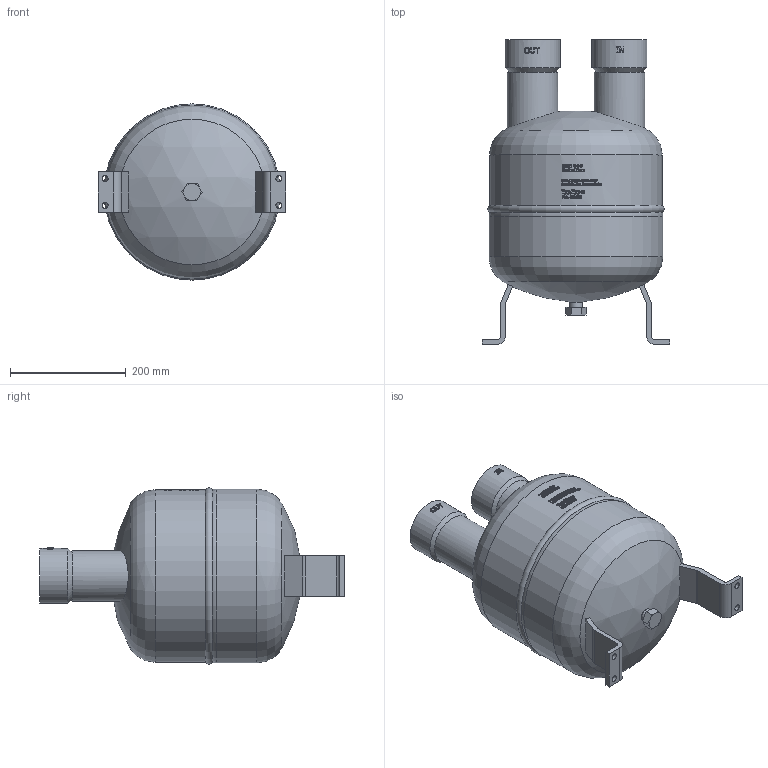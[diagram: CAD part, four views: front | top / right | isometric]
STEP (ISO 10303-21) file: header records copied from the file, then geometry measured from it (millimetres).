
FILE_DESCRIPTION(/* description */ (''),/* implementation_level */ '2;1');
FILE_NAME(/* name */ 'P:\FA\FA-80_89\FA-80_89.stp',/* time_stamp */ '2017-10-05T08:03:39+02:00',/* author */ ('neufeld'),/* organization */ (''),/* preprocessor_version */ 'ST-DEVELOPER v16.1',/* originating_system */ 'Autodesk Inventor 2016',/* authorisation */ '');
FILE_SCHEMA (('AUTOMOTIVE_DESIGN { 1 0 10303 214 3 1 1 }'));
Length unit declared in the file: millimetre
Products named in the file (2): FA-80_89; FA-80_89_1
Assembly tree (1 placements, depth 2):
  FA-80_89_1
    FA-80_89
Bounding box: 324 x 525.9 x 304.25 mm (x, y, z)
Volume: 20979319.1 mm3; surface area: 517561.8 mm2
Topology: 1 solids, 1 shells, 1319 faces, 3564 edges, 2370 vertices
Faces by surface type: plane 689, bspline 474, cylinder 135, cone 15, torus 4, sphere 2
Full cylindrical faces by diameter (mm): 10.5 x4, 20 x1, 22.5 x1, 23.6 x1, 87 x2, 89.3 x2, 95 x2, 298 x1, 300 x1
Entity records: 51792 total; most frequent: CARTESIAN_POINT 21108, ORIENTED_EDGE 7078, DIRECTION 5150, EDGE_CURVE 3539, VERTEX_POINT 2367, AXIS2_PLACEMENT_3D 1737, LINE 1676, VECTOR 1676
